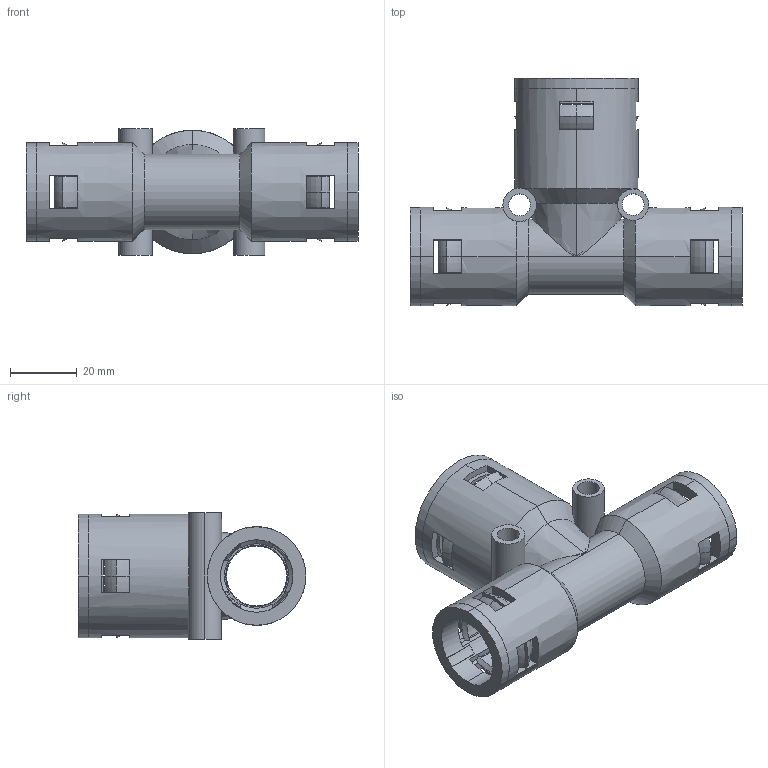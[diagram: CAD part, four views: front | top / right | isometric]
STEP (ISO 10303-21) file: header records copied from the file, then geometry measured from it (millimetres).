
FILE_DESCRIPTION (( 'STEP AP203' ), '1' );
FILE_NAME ('WQT-PA AD28.5-2X21.2.STEP', '2020-03-03T07:19:43', ( 'c' ), ( 'Microsoft' ), 'SwSTEP 2.0', 'SolidWorks 2016', '' );
FILE_SCHEMA (( 'CONFIG_CONTROL_DESIGN' ));
Length unit declared in the file: millimetre
Products named in the file (6): NSK-AD21.2; GFD-AD21.2; GFD-AD28.5; WQT-PA AD28.5-2X21.2; WQT-AD28.5-2X21.2-01; NSK-AD28.5
Assembly tree (7 placements, depth 2):
  WQT-PA AD28.5-2X21.2
    WQT-AD28.5-2X21.2-01
    NSK-AD28.5
    NSK-AD21.2  x2
    GFD-AD21.2  x2
    GFD-AD28.5
Bounding box: 99.47 x 68.27 x 38 mm (x, y, z)
Volume: 42797 mm3; surface area: 45714.2 mm2
Topology: 13 solids, 13 shells, 520 faces, 1360 edges, 844 vertices
Faces by surface type: plane 221, cone 143, torus 82, cylinder 74
Entity records: 13655 total; most frequent: CARTESIAN_POINT 3220, DIRECTION 2175, ORIENTED_EDGE 2024, EDGE_CURVE 1012, AXIS2_PLACEMENT_3D 879, VERTEX_POINT 630, CIRCLE 489, EDGE_LOOP 420
